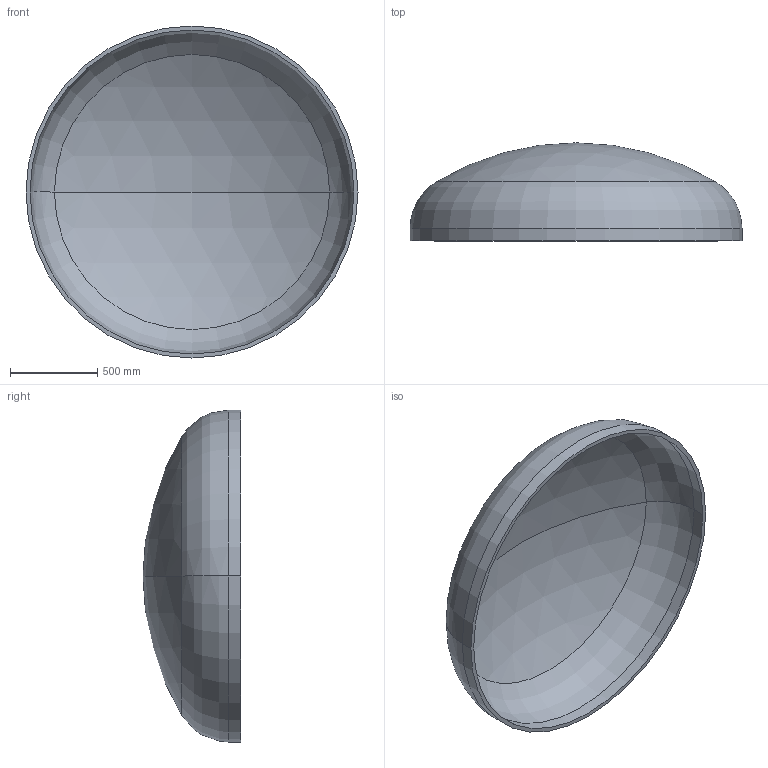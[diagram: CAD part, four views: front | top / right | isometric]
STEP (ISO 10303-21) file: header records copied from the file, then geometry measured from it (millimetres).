
FILE_DESCRIPTION (( 'STEP AP203' ), '1' );
FILE_NAME ('DIN 28013 Korbbogenform_-_Boden DIN 28013 - 1900 x 70 - I - s=23.step', '2016-07-01T13:00:39', ( '' ), ( '' ), 'SwSTEP 2.0', 'SolidWorks 2013', '' );
FILE_SCHEMA (( 'CONFIG_CONTROL_DESIGN' ));
Length unit declared in the file: millimetre
Products named in the file (1): DIN 28013 Korbbogenform_-_Boden DIN 28013 - 1900 x 70 - I - s=23
Bounding box: 1900 x 560.8 x 1900 mm (x, y, z)
Volume: 98221663.4 mm3; surface area: 8677744.8 mm2
Topology: 1 solids, 1 shells, 13 faces, 24 edges, 14 vertices
Faces by surface type: torus 4, cylinder 4, sphere 4, plane 1
Entity records: 407 total; most frequent: DIRECTION 72, CARTESIAN_POINT 52, ORIENTED_EDGE 48, AXIS2_PLACEMENT_3D 34, EDGE_CURVE 24, CIRCLE 20, EDGE_LOOP 14, VERTEX_POINT 14
